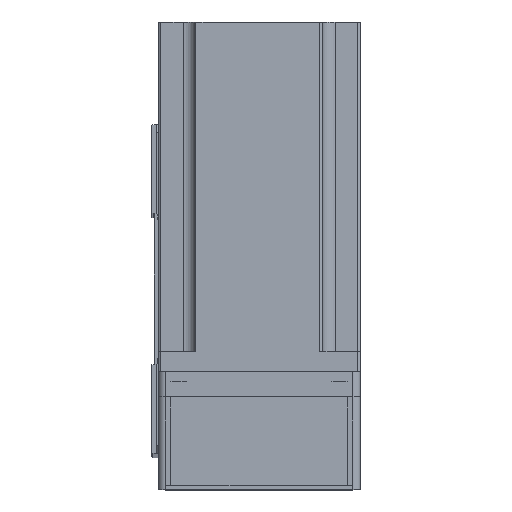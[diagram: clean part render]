
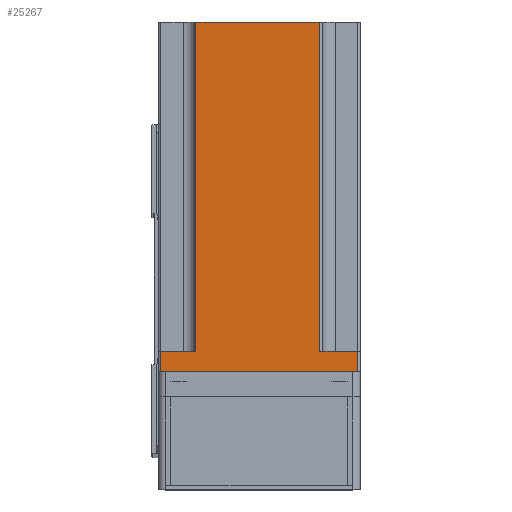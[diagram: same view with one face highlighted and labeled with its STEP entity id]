
A CAD part, top view. The second image highlights one B-rep face of the part: STEP entity #25267.
In plain terms, the highlighted planar face has unit normal (0, 0, 1) as drawn and (-1, 0, 0) by its records, which use the part's own axes.
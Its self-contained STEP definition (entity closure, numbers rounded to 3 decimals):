
#173 = VECTOR ( 'NONE', #19590, 1000. ) ;
#456 = VECTOR ( 'NONE', #4860, 1000. ) ;
#988 = CARTESIAN_POINT ( 'NONE',  ( -40., 40., 8. ) ) ;
#1340 = VECTOR ( 'NONE', #31074, 1000. ) ;
#1600 = CARTESIAN_POINT ( 'NONE',  ( -40., -40., 8. ) ) ;
#1631 = VERTEX_POINT ( 'NONE', #29013 ) ;
#2211 = VECTOR ( 'NONE', #33347, 1000. ) ;
#2657 = DIRECTION ( 'NONE',  ( 0., 0., -1. ) ) ;
#3408 = LINE ( 'NONE', #14159, #2211 ) ;
#4140 = CARTESIAN_POINT ( 'NONE',  ( -40., 25., 8. ) ) ;
#4444 = CARTESIAN_POINT ( 'NONE',  ( -40., -24., 8. ) ) ;
#4834 = LINE ( 'NONE', #35894, #44610 ) ;
#4860 = DIRECTION ( 'NONE',  ( 0., 1., 0. ) ) ;
#5843 = ORIENTED_EDGE ( 'NONE', *, *, #15279, .T. ) ;
#6613 = VERTEX_POINT ( 'NONE', #46539 ) ;
#6625 = FACE_OUTER_BOUND ( 'NONE', #21317, .T. ) ;
#7175 = CARTESIAN_POINT ( 'NONE',  ( -40., -40., 138.3 ) ) ;
#7363 = EDGE_CURVE ( 'NONE', #1631, #29273, #38200, .T. ) ;
#7946 = CARTESIAN_POINT ( 'NONE',  ( -40., -24., 138.3 ) ) ;
#9474 = LINE ( 'NONE', #988, #456 ) ;
#9733 = ORIENTED_EDGE ( 'NONE', *, *, #37625, .T. ) ;
#9745 = LINE ( 'NONE', #7175, #18811 ) ;
#9864 = ORIENTED_EDGE ( 'NONE', *, *, #7363, .T. ) ;
#10397 = LINE ( 'NONE', #7946, #173 ) ;
#10691 = VERTEX_POINT ( 'NONE', #34651 ) ;
#11109 = EDGE_CURVE ( 'NONE', #37434, #28896, #9745, .T. ) ;
#11236 = EDGE_CURVE ( 'NONE', #6613, #37434, #32049, .T. ) ;
#11543 = VECTOR ( 'NONE', #32561, 1000. ) ;
#14159 = CARTESIAN_POINT ( 'NONE',  ( -40., 39., 138.3 ) ) ;
#15279 = EDGE_CURVE ( 'NONE', #6613, #10691, #9474, .T. ) ;
#15286 = VECTOR ( 'NONE', #40452, 1000. ) ;
#17814 = PLANE ( 'NONE',  #30971 ) ;
#18793 = CARTESIAN_POINT ( 'NONE',  ( -40., -24., 138.3 ) ) ;
#18811 = VECTOR ( 'NONE', #22655, 1000. ) ;
#19590 = DIRECTION ( 'NONE',  ( 0., 0., 1. ) ) ;
#21317 = EDGE_LOOP ( 'NONE', ( #38399, #30350, #36940, #29938, #5843, #9733, #45938, #9864 ) ) ;
#22655 = DIRECTION ( 'NONE',  ( 0., -1., 0. ) ) ;
#22996 = LINE ( 'NONE', #1600, #11543 ) ;
#23902 = VERTEX_POINT ( 'NONE', #49461 ) ;
#25267 = ADVANCED_FACE ( 'NONE', ( #6625 ), #17814, .F. ) ;
#25666 = DIRECTION ( 'NONE',  ( 1., 0., 0. ) ) ;
#28864 = CARTESIAN_POINT ( 'NONE',  ( -40., -39., 8. ) ) ;
#28896 = VERTEX_POINT ( 'NONE', #18793 ) ;
#29013 = CARTESIAN_POINT ( 'NONE',  ( -40., -39., 0. ) ) ;
#29273 = VERTEX_POINT ( 'NONE', #28864 ) ;
#29908 = EDGE_CURVE ( 'NONE', #23902, #1631, #4834, .T. ) ;
#29938 = ORIENTED_EDGE ( 'NONE', *, *, #11236, .F. ) ;
#30350 = ORIENTED_EDGE ( 'NONE', *, *, #38942, .T. ) ;
#30971 = AXIS2_PLACEMENT_3D ( 'NONE', #48792, #25666, #2657 ) ;
#31074 = DIRECTION ( 'NONE',  ( 0., 0., 1. ) ) ;
#31442 = VERTEX_POINT ( 'NONE', #4444 ) ;
#32049 = LINE ( 'NONE', #4140, #1340 ) ;
#32561 = DIRECTION ( 'NONE',  ( 0., -1., 0. ) ) ;
#33347 = DIRECTION ( 'NONE',  ( 0., 0., -1. ) ) ;
#34651 = CARTESIAN_POINT ( 'NONE',  ( -40., 39., 8. ) ) ;
#35894 = CARTESIAN_POINT ( 'NONE',  ( -40., -40., 0. ) ) ;
#36404 = CARTESIAN_POINT ( 'NONE',  ( -40., -39., 138.3 ) ) ;
#36940 = ORIENTED_EDGE ( 'NONE', *, *, #11109, .F. ) ;
#37434 = VERTEX_POINT ( 'NONE', #47847 ) ;
#37625 = EDGE_CURVE ( 'NONE', #10691, #23902, #3408, .T. ) ;
#38200 = LINE ( 'NONE', #36404, #15286 ) ;
#38399 = ORIENTED_EDGE ( 'NONE', *, *, #44630, .F. ) ;
#38942 = EDGE_CURVE ( 'NONE', #31442, #28896, #10397, .T. ) ;
#40452 = DIRECTION ( 'NONE',  ( 0., 0., 1. ) ) ;
#44610 = VECTOR ( 'NONE', #47536, 1000. ) ;
#44630 = EDGE_CURVE ( 'NONE', #31442, #29273, #22996, .T. ) ;
#45938 = ORIENTED_EDGE ( 'NONE', *, *, #29908, .T. ) ;
#46539 = CARTESIAN_POINT ( 'NONE',  ( -40., 25., 8. ) ) ;
#47536 = DIRECTION ( 'NONE',  ( 0., -1., 0. ) ) ;
#47847 = CARTESIAN_POINT ( 'NONE',  ( -40., 25., 138.3 ) ) ;
#48792 = CARTESIAN_POINT ( 'NONE',  ( -40., -40., 138.3 ) ) ;
#49461 = CARTESIAN_POINT ( 'NONE',  ( -40., 39., 0. ) ) ;
